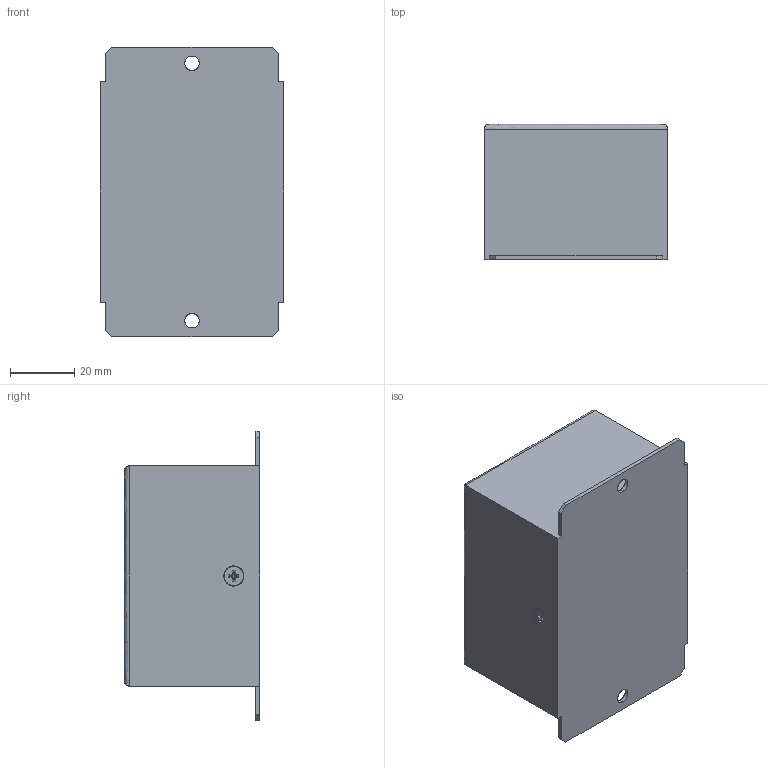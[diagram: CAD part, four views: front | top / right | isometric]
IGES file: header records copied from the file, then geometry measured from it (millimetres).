
Start section: SolidWorks IGES file using analytic representation for surfaces
Global section: file name: D:\デジカラーデータ\MD Spirit 2024_SOLIDWORKS 2023\３＿オプション\1_PJR-3\IGES\PJR-3_Assem1.IGS; native system: SolidWorks 2023; preprocessor: SolidWorks 2023; author: sunahara; date: 240618.115602; units: millimetre
Bounding box: 57 x 42 x 90 mm (x, y, z)
Surface area: 27246.8 mm2 (no closed solid volume)
Topology: 0 solids, 0 shells, 217 faces, 3166 edges, 3166 vertices
Faces by surface type: bspline 126, revolution 91
